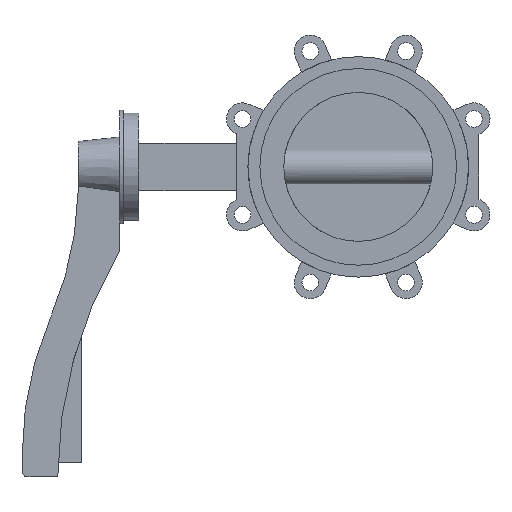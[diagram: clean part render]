
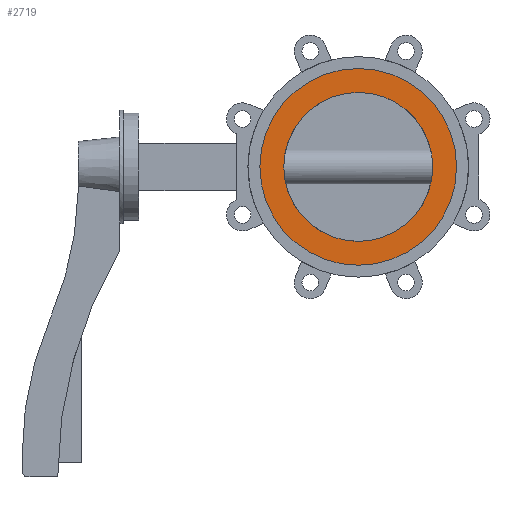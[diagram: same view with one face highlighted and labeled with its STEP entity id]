
A CAD part, left-side view. The second image highlights one B-rep face of the part: STEP entity #2719.
In plain terms, the highlighted planar face has unit normal (-1, 0, 0).
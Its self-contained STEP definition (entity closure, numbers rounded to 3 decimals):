
#303 = EDGE_CURVE ( 'NONE', #4929, #2942, #1237, .T. ) ;
#383 = CARTESIAN_POINT ( 'NONE',  ( -30.5, 0., 82.5 ) ) ;
#490 = VERTEX_POINT ( 'NONE', #1781 ) ;
#511 = CIRCLE ( 'NONE', #4103, 62.5 ) ;
#690 = CARTESIAN_POINT ( 'NONE',  ( -30.5, 0., 0. ) ) ;
#758 = DIRECTION ( 'NONE',  ( 0., 0., -1. ) ) ;
#770 = EDGE_LOOP ( 'NONE', ( #3432, #2176 ) ) ;
#811 = DIRECTION ( 'NONE',  ( 1., 0., 0. ) ) ;
#837 = ORIENTED_EDGE ( 'NONE', *, *, #4122, .F. ) ;
#1237 = CIRCLE ( 'NONE', #3578, 62.5 ) ;
#1421 = AXIS2_PLACEMENT_3D ( 'NONE', #5464, #2851, #758 ) ;
#1778 = CARTESIAN_POINT ( 'NONE',  ( -30.5, 0., 62.5 ) ) ;
#1781 = CARTESIAN_POINT ( 'NONE',  ( -30.5, 0., -82.5 ) ) ;
#1941 = CIRCLE ( 'NONE', #2206, 82.5 ) ;
#1948 = CIRCLE ( 'NONE', #1421, 82.5 ) ;
#2152 = PLANE ( 'NONE',  #4561 ) ;
#2176 = ORIENTED_EDGE ( 'NONE', *, *, #303, .T. ) ;
#2206 = AXIS2_PLACEMENT_3D ( 'NONE', #5311, #3221, #4902 ) ;
#2613 = CARTESIAN_POINT ( 'NONE',  ( -30.5, 0., 0. ) ) ;
#2642 = DIRECTION ( 'NONE',  ( 1., 0., 0. ) ) ;
#2719 = ADVANCED_FACE ( 'NONE', ( #5101, #4322 ), #2152, .F. ) ;
#2851 = DIRECTION ( 'NONE',  ( 1., 0., 0. ) ) ;
#2942 = VERTEX_POINT ( 'NONE', #1778 ) ;
#3018 = CARTESIAN_POINT ( 'NONE',  ( -30.5, 0., -62.5 ) ) ;
#3221 = DIRECTION ( 'NONE',  ( 1., 0., 0. ) ) ;
#3432 = ORIENTED_EDGE ( 'NONE', *, *, #3989, .T. ) ;
#3578 = AXIS2_PLACEMENT_3D ( 'NONE', #690, #4651, #5395 ) ;
#3794 = EDGE_LOOP ( 'NONE', ( #837, #5226 ) ) ;
#3904 = CARTESIAN_POINT ( 'NONE',  ( -30.5, 0., 0. ) ) ;
#3989 = EDGE_CURVE ( 'NONE', #2942, #4929, #511, .T. ) ;
#4103 = AXIS2_PLACEMENT_3D ( 'NONE', #2613, #2642, #4816 ) ;
#4122 = EDGE_CURVE ( 'NONE', #4727, #490, #1941, .T. ) ;
#4322 = FACE_BOUND ( 'NONE', #770, .T. ) ;
#4357 = EDGE_CURVE ( 'NONE', #490, #4727, #1948, .T. ) ;
#4561 = AXIS2_PLACEMENT_3D ( 'NONE', #3904, #811, #5529 ) ;
#4651 = DIRECTION ( 'NONE',  ( 1., 0., 0. ) ) ;
#4727 = VERTEX_POINT ( 'NONE', #383 ) ;
#4816 = DIRECTION ( 'NONE',  ( 0., 0., -1. ) ) ;
#4902 = DIRECTION ( 'NONE',  ( 0., 0., -1. ) ) ;
#4929 = VERTEX_POINT ( 'NONE', #3018 ) ;
#5101 = FACE_OUTER_BOUND ( 'NONE', #3794, .T. ) ;
#5226 = ORIENTED_EDGE ( 'NONE', *, *, #4357, .F. ) ;
#5311 = CARTESIAN_POINT ( 'NONE',  ( -30.5, 0., 0. ) ) ;
#5395 = DIRECTION ( 'NONE',  ( 0., 0., -1. ) ) ;
#5464 = CARTESIAN_POINT ( 'NONE',  ( -30.5, 0., 0. ) ) ;
#5529 = DIRECTION ( 'NONE',  ( 0., 0., -1. ) ) ;
